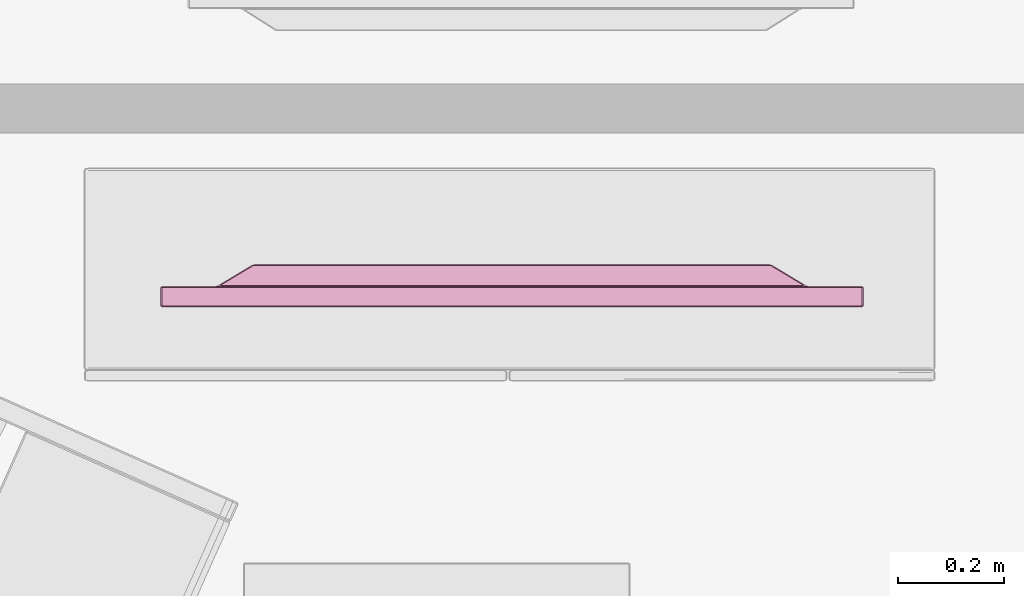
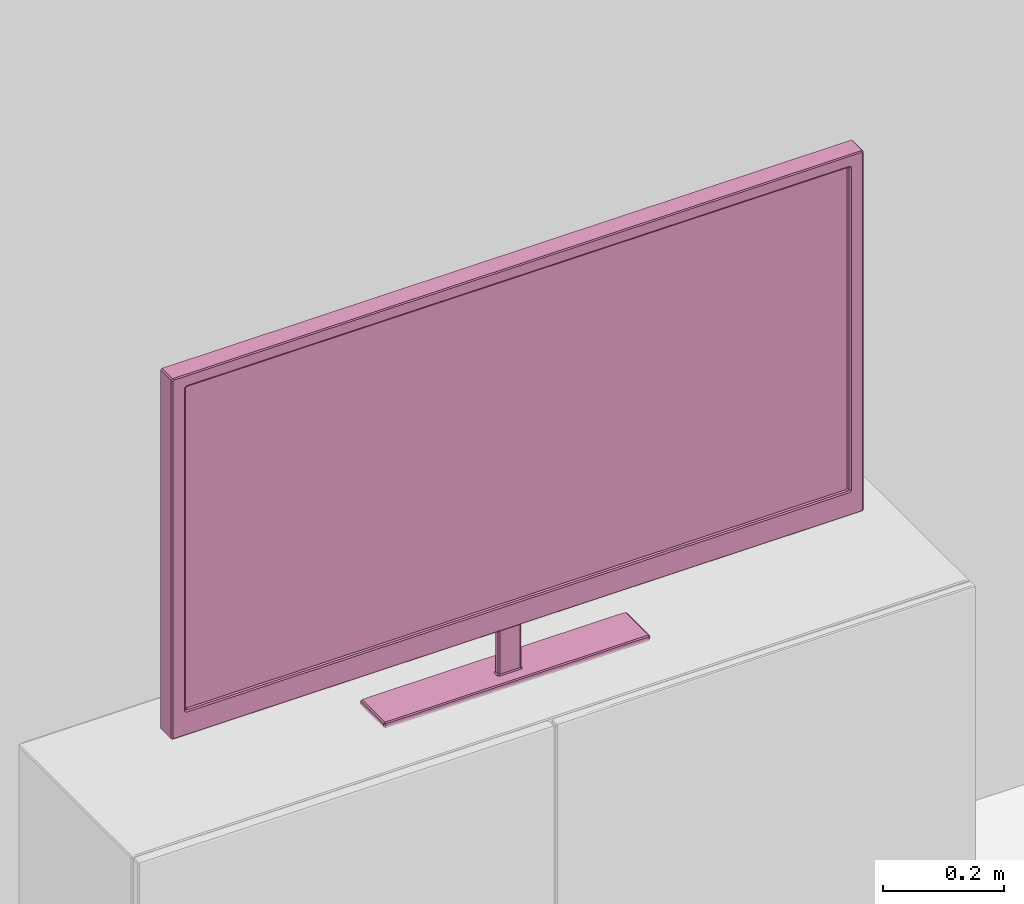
# One storey, part 12 of 26: 1 furnishing.
"""IFC2X3 building model written with IfcOpenShell, lengths in metres."""

from ifc_helpers import new_model, si_unit, direction, frame, origin_with_axes, place, context, project, spatial, faceted_brep, type_object, element, save


model = new_model("IFC2X3")

# Units and contexts
model_context = context("Model", 3, precision=1e-05, world=origin_with_axes(), true_north=direction((0.996, -0.093, 0.0)))
ifc_project = project(units=[si_unit("AREAUNIT", "SQUARE_METRE"), si_unit("LENGTHUNIT", "METRE")], contexts=[model_context])

# Site, building, storey, space
site_placement = place(None, origin_with_axes())
site = spatial("IfcSite", under=ifc_project, at=site_placement, Name="Site", CompositionType="ELEMENT")
building_placement = place(site_placement, origin_with_axes())
building = spatial("IfcBuilding", under=site, at=building_placement, Name="Building", CompositionType="ELEMENT")
storey_placement = place(building_placement, frame((0.0, 0.0, 0.0500001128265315), z_axis=(0.0, 0.0, 1.0), x_axis=(1.0, 0.0, 0.0)))
storey = spatial("IfcBuildingStorey", under=building, at=storey_placement, Name="Story 0", CompositionType="ELEMENT", Elevation=0.0499999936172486)
space_placement = place(storey_placement, frame((9.9354534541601, 0.769255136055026, 0.0), z_axis=(0.0, 0.0, 1.0), x_axis=(1.0, 0.0, 0.0)))
space = spatial("IfcSpace", under=storey, at=space_placement, Name="021", CompositionType="ELEMENT", InteriorOrExteriorSpace="INTERNAL")

# Furnishing
furniture_type = type_object("IfcFurnitureType", Name="e62a85dd-64e1-4275-b240-dcd4eaa5aa7b")
furnishing_placement = place(space_placement, frame((-1.20295147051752, -0.287239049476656, 1.22750790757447), z_axis=(0.0, 0.0, 0.999999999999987), x_axis=(0.0, -0.999999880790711, 0.0)))
element("IfcFurnishingElement", 1, at=furnishing_placement, inside=space, type_object=furniture_type, Name="Television", ObjectType="Television", context=model_context, shape_type="Brep", body=[
    faceted_brep([(0.0288, -0.6267, -0.2505), (0.0288, 0.6267, -0.2505), (0.0288, -0.6292, -0.2482), (0.0288, -0.6292, 0.3928), (0.0288, -0.6292, -0.2482), (0.0288, -0.6267, 0.3951), (0.0288, 0.6267, 0.3951), (0.0288, -0.6267, 0.3951), (0.0288, 0.6292, 0.3928), (0.0288, -0.6267, 0.3951), (0.0288, -0.6292, -0.2482), (0.0288, 0.6292, 0.3928), (0.0288, -0.6292, -0.2482), (0.0288, 0.6267, -0.2505), (0.0288, 0.6292, 0.3928), (0.0288, 0.6267, -0.2505), (0.0288, 0.6292, -0.2482), (0.0288, 0.6292, 0.3928), (0.003, -0.6609, 0.4215), (0.003, -0.6609, -0.3021), (0.038, -0.6609, 0.4215), (0.038, -0.6609, -0.3021), (0.038, -0.6609, 0.4215), (0.003, -0.6609, -0.3021), (0.003, 0.6609, -0.3021), (0.003, 0.6609, 0.4215), (0.038, 0.6609, -0.3021), (0.038, 0.6609, 0.4215), (0.038, 0.6609, -0.3021), (0.003, 0.6609, 0.4215), (0.003, 0.6584, 0.4237), (0.003, -0.6584, 0.4237), (0.038, 0.6584, 0.4237), (0.038, -0.6584, 0.4237), (0.038, 0.6584, 0.4237), (0.003, -0.6584, 0.4237), (0.0143, -0.0228, -0.2782), (0.0062, -0.0228, -0.2782), (0.0143, -0.0228, -0.4092), (0.0062, -0.0228, -0.4092), (0.0143, -0.0228, -0.4092), (0.0062, -0.0228, -0.2782), (0.0162, 0.0181, -0.2782), (0.0162, -0.0203, -0.2782), (0.0162, 0.0181, -0.4092), (0.0162, -0.0203, -0.4092), (0.0162, 0.0181, -0.4092), (0.0162, -0.0203, -0.2782), (0.0062, 0.0205, -0.2782), (0.0143, 0.0205, -0.2782), (0.0062, 0.0205, -0.4092), (0.0143, 0.0205, -0.4092), (0.0062, 0.0205, -0.4092), (0.0143, 0.0205, -0.2782), (-0.04, 0.4844, -0.1705), (-0.04, -0.4844, -0.1705), (-0.04, 0.4844, 0.2899), (-0.04, -0.4844, 0.2899), (-0.04, 0.4844, 0.2899), (-0.04, -0.4844, -0.1705), (0.0043, 0.0181, -0.4092), (0.0043, -0.0203, -0.4092), (0.0043, 0.0181, -0.2782), (0.0043, -0.0203, -0.2782), (0.0043, 0.0181, -0.2782), (0.0043, -0.0203, -0.4092), (0.038, -0.6584, -0.3044), (0.003, -0.6584, -0.3044), (0.038, 0.6584, -0.3044), (0.003, 0.6584, -0.3044), (0.038, 0.6584, -0.3044), (0.003, -0.6584, -0.3044), (-0.0379, -0.2528, -0.4237), (-0.0379, 0.2505, -0.4237), (0.0382, -0.2528, -0.4237), (0.0382, 0.2505, -0.4237), (0.0382, -0.2528, -0.4237), (-0.0379, 0.2505, -0.4237), (0.0399, -0.6326, -0.2572), (0.0399, -0.657, -0.3021), (0.0399, 0.6326, -0.2572), (0.0399, 0.657, -0.3021), (0.0399, 0.6326, -0.2572), (0.0399, -0.657, -0.3021), (0.0399, -0.6366, 0.3986), (0.0399, -0.6584, 0.4184), (0.0399, -0.6366, -0.2545), (0.0399, -0.6584, -0.2948), (0.0399, -0.6366, -0.2545), (0.0399, -0.6584, 0.4184), (0.0399, 0.6331, 0.4018), (0.0399, 0.655, 0.4215), (0.0399, -0.6331, 0.4018), (0.0399, -0.655, 0.4215), (0.0399, -0.6331, 0.4018), (0.0399, 0.655, 0.4215), (0.0399, 0.6584, -0.2948), (0.0399, 0.6584, 0.4184), (0.0399, 0.6366, -0.2545), (0.0399, 0.6366, 0.3986), (0.0399, 0.6366, -0.2545), (0.0399, 0.6584, 0.4184), (0.0288, -0.6267, -0.2505), (0.0381, -0.6308, -0.2543), (0.0288, 0.6267, -0.2505), (0.0381, 0.6308, -0.2543), (0.0288, 0.6267, -0.2505), (0.0381, -0.6308, -0.2543), (0.0288, -0.6292, 0.3928), (0.0381, -0.6334, 0.3965), (0.0288, -0.6292, -0.2482), (0.0381, -0.6334, -0.2519), (0.0288, -0.6292, -0.2482), (0.0381, -0.6334, 0.3965), (0.0288, 0.6267, 0.3951), (0.0381, 0.6308, 0.3988), (0.0288, -0.6267, 0.3951), (0.0381, -0.6308, 0.3988), (0.0288, -0.6267, 0.3951), (0.0381, 0.6308, 0.3988), (0.0288, 0.6292, -0.2482), (0.0381, 0.6334, -0.2519), (0.0288, 0.6292, 0.3928), (0.0381, 0.6334, 0.3965), (0.0288, 0.6292, 0.3928), (0.0381, 0.6334, -0.2519), (0.0011, -0.5579, -0.2134), (0.0011, -0.6584, -0.2992), (0.0011, -0.5579, 0.3327), (0.0011, -0.6584, 0.4186), (0.0011, -0.5579, 0.3327), (0.0011, -0.6584, -0.2992), (0.0011, 0.5545, -0.2165), (0.0011, 0.6547, -0.3021), (0.0011, -0.5545, -0.2165), (0.0011, -0.6547, -0.3021), (0.0011, -0.5545, -0.2165), (0.0011, 0.6547, -0.3021), (0.0011, 0.5579, 0.3327), (0.0011, 0.6584, 0.4186), (0.0011, 0.5579, -0.2134), (0.0011, 0.6584, -0.2992), (0.0011, 0.5579, -0.2134), (0.0011, 0.6584, 0.4186), (0.0011, -0.5545, 0.3359), (0.0011, -0.6547, 0.4215), (0.0011, 0.5545, 0.3359), (0.0011, 0.6547, 0.4215), (0.0011, 0.5545, 0.3359), (0.0011, -0.6547, 0.4215), (-0.0389, -0.4888, 0.2908), (-0.0389, -0.4888, -0.1714), (0.0, -0.5535, 0.33), (0.0, -0.5535, -0.2107), (0.0, -0.5535, 0.33), (-0.0389, -0.4888, -0.1714), (-0.0386, -0.4858, -0.1742), (-0.0386, 0.4858, -0.1742), (-0.0003, -0.5497, -0.2129), (-0.0003, 0.5497, -0.2129), (-0.0003, -0.5497, -0.2129), (-0.0386, 0.4858, -0.1742), (-0.0389, 0.4888, -0.1714), (-0.0389, 0.4888, 0.2908), (0.0, 0.5535, -0.2107), (0.0, 0.5535, 0.33), (0.0, 0.5535, -0.2107), (-0.0389, 0.4888, 0.2908), (-0.0386, 0.4858, 0.2935), (-0.0386, -0.4858, 0.2935), (-0.0003, 0.5497, 0.3323), (-0.0003, -0.5497, 0.3323), (-0.0003, 0.5497, 0.3323), (-0.0386, -0.4858, 0.2935), (0.04, 0.2505, -0.4215), (0.04, 0.2505, -0.4138), (0.04, -0.2528, -0.4215), (0.04, -0.2528, -0.4138), (0.04, -0.2528, -0.4215), (0.04, 0.2505, -0.4138), (-0.0379, 0.253, -0.4215), (-0.0379, 0.253, -0.4138), (0.0382, 0.253, -0.4215), (0.0382, 0.253, -0.4138), (0.0382, 0.253, -0.4215), (-0.0379, 0.253, -0.4138), (-0.0397, -0.2528, -0.4215), (-0.0397, -0.2528, -0.4138), (-0.0397, 0.2505, -0.4215), (-0.0397, 0.2505, -0.4138), (-0.0397, 0.2505, -0.4215), (-0.0397, -0.2528, -0.4138), (0.0382, -0.2552, -0.4215), (0.0382, -0.2552, -0.4138), (-0.0379, -0.2552, -0.4215), (-0.0379, -0.2552, -0.4138), (-0.0379, -0.2552, -0.4215), (0.0382, -0.2552, -0.4138), (-0.0374, -0.2528, -0.4115), (0.0379, -0.2528, -0.4115), (0.0058, -0.0252, -0.4115), (0.0146, -0.0252, -0.4115), (0.0058, -0.0252, -0.4115), (0.0379, -0.2528, -0.4115), (0.0025, 0.0202, -0.4115), (-0.0379, 0.2332, -0.4115), (0.0025, -0.0225, -0.4115), (-0.0379, -0.2355, -0.4115), (0.0025, -0.0225, -0.4115), (-0.0379, 0.2332, -0.4115), (0.0146, 0.023, -0.4115), (0.0379, 0.2505, -0.4116), (0.0058, 0.023, -0.4115), (-0.0374, 0.2505, -0.4116), (0.0058, 0.023, -0.4115), (0.0379, 0.2505, -0.4116), (0.018, -0.0226, -0.4115), (0.0382, -0.2191, -0.4115), (0.018, 0.0204, -0.4115), (0.0382, 0.2169, -0.4115), (0.018, 0.0204, -0.4115), (0.0382, -0.2191, -0.4115), (0.0346, -0.6464, -0.2633), (0.0346, 0.6464, -0.2633), (0.0346, -0.6464, 0.4078), (0.0346, 0.6464, 0.4078), (0.0346, -0.6464, 0.4078), (0.0346, 0.6464, -0.2633), (0.0399, -0.655, 0.4215), (0.038, -0.6584, 0.4237), (0.0399, -0.6584, 0.4184), (0.038, -0.6609, 0.4215), (0.0399, -0.6584, 0.4184), (0.038, -0.6584, 0.4237), (0.0011, 0.6547, 0.4215), (0.003, 0.6584, 0.4237), (0.0011, 0.6584, 0.4186), (0.003, 0.6609, 0.4215), (0.0011, 0.6584, 0.4186), (0.003, 0.6584, 0.4237), (0.0399, 0.6584, 0.4184), (0.038, 0.6609, 0.4215), (0.0399, 0.655, 0.4215), (0.038, 0.6584, 0.4237), (0.0399, 0.655, 0.4215), (0.038, 0.6609, 0.4215), (0.0058, -0.0252, -0.4115), (0.0062, -0.0228, -0.4092), (0.0025, -0.0225, -0.4115), (0.0043, -0.0203, -0.4092), (0.0025, -0.0225, -0.4115), (0.0062, -0.0228, -0.4092), (0.0146, -0.0252, -0.4115), (0.018, -0.0226, -0.4115), (0.0143, -0.0228, -0.4092), (0.0162, -0.0203, -0.4092), (0.0143, -0.0228, -0.4092), (0.018, -0.0226, -0.4115), (0.0146, 0.023, -0.4115), (0.0143, 0.0205, -0.4092), (0.018, 0.0204, -0.4115), (0.0162, 0.0181, -0.4092), (0.018, 0.0204, -0.4115), (0.0143, 0.0205, -0.4092), (-0.0386, -0.4858, 0.2935), (-0.04, -0.4844, 0.2899), (-0.0389, -0.4888, 0.2908), (0.0058, 0.023, -0.4115), (0.0025, 0.0202, -0.4115), (0.0062, 0.0205, -0.4092), (0.0043, 0.0181, -0.4092), (0.0062, 0.0205, -0.4092), (0.0025, 0.0202, -0.4115), (0.0011, -0.6547, -0.3021), (0.003, -0.6584, -0.3044), (0.0011, -0.6584, -0.2992), (0.003, -0.6609, -0.3021), (0.0011, -0.6584, -0.2992), (0.003, -0.6584, -0.3044), (0.0399, -0.6584, -0.2948), (0.038, -0.6609, -0.3021), (0.0399, -0.657, -0.3021), (0.038, -0.6584, -0.3044), (0.0399, -0.657, -0.3021), (0.038, -0.6609, -0.3021), (0.0382, -0.2552, -0.4215), (0.0382, -0.2528, -0.4237), (0.04, -0.2528, -0.4215), (0.0399, 0.6584, -0.2948), (0.0399, 0.657, -0.3021), (0.038, 0.6609, -0.3021), (0.038, 0.6584, -0.3044), (0.038, 0.6609, -0.3021), (0.0399, 0.657, -0.3021), (0.0381, -0.6334, -0.2519), (0.0399, -0.6366, -0.2545), (0.0381, -0.6308, -0.2543), (0.0399, -0.6326, -0.2572), (0.0381, -0.6308, -0.2543), (0.0399, -0.6366, -0.2545), (0.0381, -0.6308, 0.3988), (0.0399, -0.6331, 0.4018), (0.0381, -0.6334, 0.3965), (0.0399, -0.6366, 0.3986), (0.0381, -0.6334, 0.3965), (0.0399, -0.6331, 0.4018), (0.0381, 0.6334, 0.3965), (0.0399, 0.6366, 0.3986), (0.0381, 0.6308, 0.3988), (0.0399, 0.6331, 0.4018), (0.0381, 0.6308, 0.3988), (0.0399, 0.6366, 0.3986), (0.0381, 0.6334, -0.2519), (0.0381, 0.6308, -0.2543), (0.0399, 0.6366, -0.2545), (0.0399, 0.6326, -0.2572), (0.0399, 0.6366, -0.2545), (0.0381, 0.6308, -0.2543), (0.0011, -0.6547, 0.4215), (0.0011, -0.6584, 0.4186), (0.003, -0.6584, 0.4237), (0.003, -0.6609, 0.4215), (0.003, -0.6584, 0.4237), (0.0011, -0.6584, 0.4186), (-0.0003, -0.5497, 0.3323), (0.0, -0.5535, 0.33), (0.0011, -0.5545, 0.3359), (0.0011, -0.5579, 0.3327), (0.0011, -0.5545, 0.3359), (0.0, -0.5535, 0.33), (-0.0003, -0.5497, -0.2129), (0.0011, -0.5545, -0.2165), (0.0, -0.5535, -0.2107), (0.0011, -0.5579, -0.2134), (0.0, -0.5535, -0.2107), (0.0011, -0.5545, -0.2165), (0.0011, 0.6547, -0.3021), (0.0011, 0.6584, -0.2992), (0.003, 0.6584, -0.3044), (0.003, 0.6609, -0.3021), (0.003, 0.6584, -0.3044), (0.0011, 0.6584, -0.2992), (-0.0003, 0.5497, -0.2129), (0.0, 0.5535, -0.2107), (0.0011, 0.5545, -0.2165), (0.0011, 0.5579, -0.2134), (0.0011, 0.5545, -0.2165), (0.0, 0.5535, -0.2107), (-0.0003, 0.5497, 0.3323), (0.0011, 0.5545, 0.3359), (0.0, 0.5535, 0.33), (0.0011, 0.5579, 0.3327), (0.0, 0.5535, 0.33), (0.0011, 0.5545, 0.3359), (-0.0386, -0.4858, -0.1742), (-0.0389, -0.4888, -0.1714), (-0.04, -0.4844, -0.1705), (-0.0389, 0.4888, -0.1714), (-0.0386, 0.4858, -0.1742), (-0.04, 0.4844, -0.1705), (-0.0386, 0.4858, 0.2935), (-0.0389, 0.4888, 0.2908), (-0.04, 0.4844, 0.2899), (0.0382, 0.253, -0.4215), (0.04, 0.2505, -0.4215), (0.0382, 0.2505, -0.4237), (-0.0397, 0.2505, -0.4215), (-0.0379, 0.253, -0.4215), (-0.0379, 0.2505, -0.4237), (-0.0379, -0.2552, -0.4215), (-0.0397, -0.2528, -0.4215), (-0.0379, -0.2528, -0.4237), (-0.0379, -0.2355, -0.4115), (-0.0397, -0.2528, -0.4138), (-0.0374, -0.2528, -0.4115), (-0.0379, -0.2552, -0.4138), (-0.0374, -0.2528, -0.4115), (-0.0397, -0.2528, -0.4138), (0.0382, -0.2191, -0.4115), (0.0379, -0.2528, -0.4115), (0.04, -0.2528, -0.4138), (0.0382, -0.2552, -0.4138), (0.04, -0.2528, -0.4138), (0.0379, -0.2528, -0.4115), (-0.0379, 0.2332, -0.4115), (-0.0374, 0.2505, -0.4116), (-0.0397, 0.2505, -0.4138), (-0.0379, 0.253, -0.4138), (-0.0397, 0.2505, -0.4138), (-0.0374, 0.2505, -0.4116), (0.0382, 0.253, -0.4138), (0.0379, 0.2505, -0.4116), (0.04, 0.2505, -0.4138), (0.0382, 0.2169, -0.4115), (0.04, 0.2505, -0.4138), (0.0379, 0.2505, -0.4116), (0.038, -0.6609, -0.3021), (0.003, -0.6609, -0.3021), (0.038, -0.6584, -0.3044), (0.003, -0.6584, -0.3044), (0.038, -0.6584, -0.3044), (0.003, -0.6609, -0.3021), (0.003, -0.6609, 0.4215), (0.038, -0.6609, 0.4215), (0.003, -0.6584, 0.4237), (0.038, -0.6584, 0.4237), (0.003, -0.6584, 0.4237), (0.038, -0.6609, 0.4215), (0.038, 0.6609, 0.4215), (0.003, 0.6609, 0.4215), (0.038, 0.6584, 0.4237), (0.003, 0.6584, 0.4237), (0.038, 0.6584, 0.4237), (0.003, 0.6609, 0.4215), (0.003, 0.6609, -0.3021), (0.038, 0.6609, -0.3021), (0.003, 0.6584, -0.3044), (0.038, 0.6584, -0.3044), (0.003, 0.6584, -0.3044), (0.038, 0.6609, -0.3021), (0.0062, -0.0228, -0.4092), (0.0062, -0.0228, -0.2782), (0.0043, -0.0203, -0.4092), (0.0043, -0.0203, -0.2782), (0.0043, -0.0203, -0.4092), (0.0062, -0.0228, -0.2782), (0.0143, -0.0228, -0.2782), (0.0143, -0.0228, -0.4092), (0.0162, -0.0203, -0.2782), (0.0162, -0.0203, -0.4092), (0.0162, -0.0203, -0.2782), (0.0143, -0.0228, -0.4092), (0.0162, 0.0181, -0.2782), (0.0162, 0.0181, -0.4092), (0.0143, 0.0205, -0.2782), (0.0143, 0.0205, -0.4092), (0.0143, 0.0205, -0.2782), (0.0162, 0.0181, -0.4092), (0.0062, 0.0205, -0.2782), (0.0062, 0.0205, -0.4092), (0.0043, 0.0181, -0.2782), (0.0043, 0.0181, -0.4092), (0.0043, 0.0181, -0.2782), (0.0062, 0.0205, -0.4092), (-0.04, -0.4844, 0.2899), (-0.04, -0.4844, -0.1705), (-0.0389, -0.4888, 0.2908), (-0.0389, -0.4888, -0.1714), (-0.0389, -0.4888, 0.2908), (-0.04, -0.4844, -0.1705), (-0.04, -0.4844, -0.1705), (-0.04, 0.4844, -0.1705), (-0.0386, -0.4858, -0.1742), (-0.0386, 0.4858, -0.1742), (-0.0386, -0.4858, -0.1742), (-0.04, 0.4844, -0.1705), (-0.04, 0.4844, -0.1705), (-0.04, 0.4844, 0.2899), (-0.0389, 0.4888, -0.1714), (-0.0389, 0.4888, 0.2908), (-0.0389, 0.4888, -0.1714), (-0.04, 0.4844, 0.2899), (-0.04, 0.4844, 0.2899), (-0.04, -0.4844, 0.2899), (-0.0386, 0.4858, 0.2935), (-0.0386, -0.4858, 0.2935), (-0.0386, 0.4858, 0.2935), (-0.04, -0.4844, 0.2899), (0.0382, 0.2505, -0.4237), (-0.0379, 0.2505, -0.4237), (0.0382, 0.253, -0.4215), (-0.0379, 0.253, -0.4215), (0.0382, 0.253, -0.4215), (-0.0379, 0.2505, -0.4237), (-0.0379, 0.2505, -0.4237), (-0.0379, -0.2528, -0.4237), (-0.0397, 0.2505, -0.4215), (-0.0397, -0.2528, -0.4215), (-0.0397, 0.2505, -0.4215), (-0.0379, -0.2528, -0.4237), (-0.0379, -0.2528, -0.4237), (0.0382, -0.2528, -0.4237), (-0.0379, -0.2552, -0.4215), (0.0382, -0.2552, -0.4215), (-0.0379, -0.2552, -0.4215), (0.0382, -0.2528, -0.4237), (0.0382, -0.2528, -0.4237), (0.0382, 0.2505, -0.4237), (0.04, -0.2528, -0.4215), (0.04, 0.2505, -0.4215), (0.04, -0.2528, -0.4215), (0.0382, 0.2505, -0.4237), (0.0399, 0.657, -0.3021), (0.0399, -0.657, -0.3021), (0.038, 0.6584, -0.3044), (0.038, -0.6584, -0.3044), (0.038, 0.6584, -0.3044), (0.0399, -0.657, -0.3021), (0.0399, -0.657, -0.3021), (0.0399, -0.6326, -0.2572), (0.0399, -0.6584, -0.2948), (0.0399, -0.6366, -0.2545), (0.0399, -0.6584, -0.2948), (0.0399, -0.6326, -0.2572), (0.0399, -0.6584, -0.2948), (0.0399, -0.6584, 0.4184), (0.038, -0.6609, -0.3021), (0.038, -0.6609, 0.4215), (0.038, -0.6609, -0.3021), (0.0399, -0.6584, 0.4184), (0.0399, -0.6584, 0.4184), (0.0399, -0.6366, 0.3986), (0.0399, -0.655, 0.4215), (0.0399, -0.6331, 0.4018), (0.0399, -0.655, 0.4215), (0.0399, -0.6366, 0.3986), (0.0399, -0.655, 0.4215), (0.0399, 0.655, 0.4215), (0.038, -0.6584, 0.4237), (0.038, 0.6584, 0.4237), (0.038, -0.6584, 0.4237), (0.0399, 0.655, 0.4215), (0.0399, 0.655, 0.4215), (0.0399, 0.6331, 0.4018), (0.0399, 0.6584, 0.4184), (0.0399, 0.6366, 0.3986), (0.0399, 0.6584, 0.4184), (0.0399, 0.6331, 0.4018), (0.0399, 0.6584, 0.4184), (0.0399, 0.6584, -0.2948), (0.038, 0.6609, 0.4215), (0.038, 0.6609, -0.3021), (0.038, 0.6609, 0.4215), (0.0399, 0.6584, -0.2948), (0.0399, 0.6584, -0.2948), (0.0399, 0.6366, -0.2545), (0.0399, 0.657, -0.3021), (0.0399, 0.6326, -0.2572), (0.0399, 0.657, -0.3021), (0.0399, 0.6366, -0.2545), (0.0381, 0.6308, -0.2543), (0.0381, -0.6308, -0.2543), (0.0399, 0.6326, -0.2572), (0.0399, -0.6326, -0.2572), (0.0399, 0.6326, -0.2572), (0.0381, -0.6308, -0.2543), (0.0381, -0.6308, -0.2543), (0.0288, -0.6267, -0.2505), (0.0381, -0.6334, -0.2519), (0.0288, -0.6292, -0.2482), (0.0381, -0.6334, -0.2519), (0.0288, -0.6267, -0.2505), (0.0381, -0.6334, -0.2519), (0.0381, -0.6334, 0.3965), (0.0399, -0.6366, -0.2545), (0.0399, -0.6366, 0.3986), (0.0399, -0.6366, -0.2545), (0.0381, -0.6334, 0.3965), (0.0381, -0.6334, 0.3965), (0.0288, -0.6292, 0.3928), (0.0381, -0.6308, 0.3988), (0.0288, -0.6267, 0.3951), (0.0381, -0.6308, 0.3988), (0.0288, -0.6292, 0.3928), (0.0381, -0.6308, 0.3988), (0.0381, 0.6308, 0.3988), (0.0399, -0.6331, 0.4018), (0.0399, 0.6331, 0.4018), (0.0399, -0.6331, 0.4018), (0.0381, 0.6308, 0.3988), (0.0381, 0.6308, 0.3988), (0.0288, 0.6267, 0.3951), (0.0381, 0.6334, 0.3965), (0.0288, 0.6292, 0.3928), (0.0381, 0.6334, 0.3965), (0.0288, 0.6267, 0.3951), (0.0381, 0.6334, 0.3965), (0.0381, 0.6334, -0.2519), (0.0399, 0.6366, 0.3986), (0.0399, 0.6366, -0.2545), (0.0399, 0.6366, 0.3986), (0.0381, 0.6334, -0.2519), (0.0381, 0.6334, -0.2519), (0.0288, 0.6292, -0.2482), (0.0381, 0.6308, -0.2543), (0.0288, 0.6267, -0.2505), (0.0381, 0.6308, -0.2543), (0.0288, 0.6292, -0.2482), (0.0011, -0.6584, 0.4186), (0.0011, -0.6584, -0.2992), (0.003, -0.6609, 0.4215), (0.003, -0.6609, -0.3021), (0.003, -0.6609, 0.4215), (0.0011, -0.6584, -0.2992), (0.0011, -0.6584, -0.2992), (0.0011, -0.5579, -0.2134), (0.0011, -0.6547, -0.3021), (0.0011, -0.5545, -0.2165), (0.0011, -0.6547, -0.3021), (0.0011, -0.5579, -0.2134), (0.0011, -0.5579, -0.2134), (0.0011, -0.5579, 0.3327), (0.0, -0.5535, -0.2107), (0.0, -0.5535, 0.33), (0.0, -0.5535, -0.2107), (0.0011, -0.5579, 0.3327), (0.0011, -0.6547, -0.3021), (0.0011, 0.6547, -0.3021), (0.003, -0.6584, -0.3044), (0.003, 0.6584, -0.3044), (0.003, -0.6584, -0.3044), (0.0011, 0.6547, -0.3021), (0.0011, 0.6547, -0.3021), (0.0011, 0.5545, -0.2165), (0.0011, 0.6584, -0.2992), (0.0011, 0.5579, -0.2134), (0.0011, 0.6584, -0.2992), (0.0011, 0.5545, -0.2165), (0.0011, 0.5545, -0.2165), (0.0011, -0.5545, -0.2165), (-0.0003, 0.5497, -0.2129), (-0.0003, -0.5497, -0.2129), (-0.0003, 0.5497, -0.2129), (0.0011, -0.5545, -0.2165), (0.0011, 0.6584, -0.2992), (0.0011, 0.6584, 0.4186), (0.003, 0.6609, -0.3021), (0.003, 0.6609, 0.4215), (0.003, 0.6609, -0.3021), (0.0011, 0.6584, 0.4186), (0.0011, 0.6584, 0.4186), (0.0011, 0.5579, 0.3327), (0.0011, 0.6547, 0.4215), (0.0011, 0.5545, 0.3359), (0.0011, 0.6547, 0.4215), (0.0011, 0.5579, 0.3327), (0.0011, 0.5579, 0.3327), (0.0011, 0.5579, -0.2134), (0.0, 0.5535, 0.33), (0.0, 0.5535, -0.2107), (0.0, 0.5535, 0.33), (0.0011, 0.5579, -0.2134), (0.0011, 0.6547, 0.4215), (0.0011, -0.6547, 0.4215), (0.003, 0.6584, 0.4237), (0.003, -0.6584, 0.4237), (0.003, 0.6584, 0.4237), (0.0011, -0.6547, 0.4215), (0.0011, -0.6547, 0.4215), (0.0011, -0.5545, 0.3359), (0.0011, -0.6584, 0.4186), (0.0011, -0.5579, 0.3327), (0.0011, -0.6584, 0.4186), (0.0011, -0.5545, 0.3359), (0.0011, -0.5545, 0.3359), (0.0011, 0.5545, 0.3359), (-0.0003, -0.5497, 0.3323), (-0.0003, 0.5497, 0.3323), (-0.0003, -0.5497, 0.3323), (0.0011, 0.5545, 0.3359), (0.0, -0.5535, -0.2107), (-0.0389, -0.4888, -0.1714), (-0.0003, -0.5497, -0.2129), (-0.0386, -0.4858, -0.1742), (-0.0003, -0.5497, -0.2129), (-0.0389, -0.4888, -0.1714), (-0.0003, 0.5497, -0.2129), (-0.0386, 0.4858, -0.1742), (0.0, 0.5535, -0.2107), (-0.0389, 0.4888, -0.1714), (0.0, 0.5535, -0.2107), (-0.0386, 0.4858, -0.1742), (0.0, 0.5535, 0.33), (-0.0389, 0.4888, 0.2908), (-0.0003, 0.5497, 0.3323), (-0.0386, 0.4858, 0.2935), (-0.0003, 0.5497, 0.3323), (-0.0389, 0.4888, 0.2908), (-0.0003, -0.5497, 0.3323), (-0.0386, -0.4858, 0.2935), (0.0, -0.5535, 0.33), (-0.0389, -0.4888, 0.2908), (0.0, -0.5535, 0.33), (-0.0386, -0.4858, 0.2935), (0.04, 0.2505, -0.4138), (0.04, 0.2505, -0.4215), (0.0382, 0.253, -0.4138), (0.0382, 0.253, -0.4215), (0.0382, 0.253, -0.4138), (0.04, 0.2505, -0.4215), (-0.0379, 0.253, -0.4138), (-0.0379, 0.253, -0.4215), (-0.0397, 0.2505, -0.4138), (-0.0397, 0.2505, -0.4215), (-0.0397, 0.2505, -0.4138), (-0.0379, 0.253, -0.4215), (-0.0397, -0.2528, -0.4138), (-0.0397, -0.2528, -0.4215), (-0.0379, -0.2552, -0.4138), (-0.0379, -0.2552, -0.4215), (-0.0379, -0.2552, -0.4138), (-0.0397, -0.2528, -0.4215), (0.0382, -0.2552, -0.4138), (0.0382, -0.2552, -0.4215), (0.04, -0.2528, -0.4138), (0.04, -0.2528, -0.4215), (0.04, -0.2528, -0.4138), (0.0382, -0.2552, -0.4215), (0.0379, -0.2528, -0.4115), (-0.0374, -0.2528, -0.4115), (0.0382, -0.2552, -0.4138), (-0.0379, -0.2552, -0.4138), (0.0382, -0.2552, -0.4138), (-0.0374, -0.2528, -0.4115), (-0.0374, -0.2528, -0.4115), (0.0058, -0.0252, -0.4115), (-0.0379, -0.2355, -0.4115), (0.0025, -0.0225, -0.4115), (-0.0379, -0.2355, -0.4115), (0.0058, -0.0252, -0.4115), (0.0058, -0.0252, -0.4115), (0.0146, -0.0252, -0.4115), (0.0062, -0.0228, -0.4092), (0.0143, -0.0228, -0.4092), (0.0062, -0.0228, -0.4092), (0.0146, -0.0252, -0.4115), (-0.0379, -0.2355, -0.4115), (-0.0379, 0.2332, -0.4115), (-0.0397, -0.2528, -0.4138), (-0.0397, 0.2505, -0.4138), (-0.0397, -0.2528, -0.4138), (-0.0379, 0.2332, -0.4115), (-0.0379, 0.2332, -0.4115), (0.0025, 0.0202, -0.4115), (-0.0374, 0.2505, -0.4116), (0.0058, 0.023, -0.4115), (-0.0374, 0.2505, -0.4116), (0.0025, 0.0202, -0.4115), (0.0025, 0.0202, -0.4115), (0.0025, -0.0225, -0.4115), (0.0043, 0.0181, -0.4092), (0.0043, -0.0203, -0.4092), (0.0043, 0.0181, -0.4092), (0.0025, -0.0225, -0.4115), (-0.0374, 0.2505, -0.4116), (0.0379, 0.2505, -0.4116), (-0.0379, 0.253, -0.4138), (0.0382, 0.253, -0.4138), (-0.0379, 0.253, -0.4138), (0.0379, 0.2505, -0.4116), (0.0379, 0.2505, -0.4116), (0.0146, 0.023, -0.4115), (0.0382, 0.2169, -0.4115), (0.018, 0.0204, -0.4115), (0.0382, 0.2169, -0.4115), (0.0146, 0.023, -0.4115), (0.0146, 0.023, -0.4115), (0.0058, 0.023, -0.4115), (0.0143, 0.0205, -0.4092), (0.0062, 0.0205, -0.4092), (0.0143, 0.0205, -0.4092), (0.0058, 0.023, -0.4115), (0.0382, 0.2169, -0.4115), (0.0382, -0.2191, -0.4115), (0.04, 0.2505, -0.4138), (0.04, -0.2528, -0.4138), (0.04, 0.2505, -0.4138), (0.0382, -0.2191, -0.4115), (0.0382, -0.2191, -0.4115), (0.018, -0.0226, -0.4115), (0.0379, -0.2528, -0.4115), (0.0146, -0.0252, -0.4115), (0.0379, -0.2528, -0.4115), (0.018, -0.0226, -0.4115), (0.018, -0.0226, -0.4115), (0.018, 0.0204, -0.4115), (0.0162, -0.0203, -0.4092), (0.0162, 0.0181, -0.4092), (0.0162, -0.0203, -0.4092), (0.018, 0.0204, -0.4115)], [[[0, 1, 2]], [[3, 4, 5]], [[6, 7, 8]], [[9, 10, 11]], [[12, 13, 14]], [[15, 16, 17]], [[18, 19, 20]], [[21, 22, 23]], [[24, 25, 26]], [[27, 28, 29]], [[30, 31, 32]], [[33, 34, 35]], [[36, 37, 38]], [[39, 40, 41]], [[42, 43, 44]], [[45, 46, 47]], [[48, 49, 50]], [[51, 52, 53]], [[54, 55, 56]], [[57, 58, 59]], [[60, 61, 62]], [[63, 64, 65]], [[66, 67, 68]], [[69, 70, 71]], [[72, 73, 74]], [[75, 76, 77]], [[78, 79, 80]], [[81, 82, 83]], [[84, 85, 86]], [[87, 88, 89]], [[90, 91, 92]], [[93, 94, 95]], [[96, 97, 98]], [[99, 100, 101]], [[102, 103, 104]], [[105, 106, 107]], [[108, 109, 110]], [[111, 112, 113]], [[114, 115, 116]], [[117, 118, 119]], [[120, 121, 122]], [[123, 124, 125]], [[126, 127, 128]], [[129, 130, 131]], [[132, 133, 134]], [[135, 136, 137]], [[138, 139, 140]], [[141, 142, 143]], [[144, 145, 146]], [[147, 148, 149]], [[150, 151, 152]], [[153, 154, 155]], [[156, 157, 158]], [[159, 160, 161]], [[162, 163, 164]], [[165, 166, 167]], [[168, 169, 170]], [[171, 172, 173]], [[174, 175, 176]], [[177, 178, 179]], [[180, 181, 182]], [[183, 184, 185]], [[186, 187, 188]], [[189, 190, 191]], [[192, 193, 194]], [[195, 196, 197]], [[198, 199, 200]], [[201, 202, 203]], [[204, 205, 206]], [[207, 208, 209]], [[210, 211, 212]], [[213, 214, 215]], [[216, 217, 218]], [[219, 220, 221]], [[222, 223, 224]], [[225, 226, 227]], [[228, 229, 230]], [[231, 232, 233]], [[234, 235, 236]], [[237, 238, 239]], [[240, 241, 242]], [[243, 244, 245]], [[246, 247, 248]], [[249, 250, 251]], [[252, 253, 254]], [[255, 256, 257]], [[258, 259, 260]], [[261, 262, 263]], [[264, 265, 266]], [[267, 268, 269]], [[270, 271, 272]], [[273, 274, 275]], [[276, 277, 278]], [[279, 280, 281]], [[282, 283, 284]], [[285, 286, 287]], [[288, 289, 290]], [[291, 292, 293]], [[294, 295, 296]], [[297, 298, 299]], [[300, 301, 302]], [[303, 304, 305]], [[306, 307, 308]], [[309, 310, 311]], [[312, 313, 314]], [[315, 316, 317]], [[318, 319, 320]], [[321, 322, 323]], [[324, 325, 326]], [[327, 328, 329]], [[330, 331, 332]], [[333, 334, 335]], [[336, 337, 338]], [[339, 340, 341]], [[342, 343, 344]], [[345, 346, 347]], [[348, 349, 350]], [[351, 352, 353]], [[354, 355, 356]], [[357, 358, 359]], [[360, 361, 362]], [[363, 364, 365]], [[366, 367, 368]], [[369, 370, 371]], [[372, 373, 374]], [[375, 376, 377]], [[378, 379, 380]], [[381, 382, 383]], [[384, 385, 386]], [[387, 388, 389]], [[390, 391, 392]], [[393, 394, 395]], [[396, 397, 398]], [[399, 400, 401]], [[402, 403, 404]], [[405, 406, 407]], [[408, 409, 410]], [[411, 412, 413]], [[414, 415, 416]], [[417, 418, 419]], [[420, 421, 422]], [[423, 424, 425]], [[426, 427, 428]], [[429, 430, 431]], [[432, 433, 434]], [[435, 436, 437]], [[438, 439, 440]], [[441, 442, 443]], [[444, 445, 446]], [[447, 448, 449]], [[450, 451, 452]], [[453, 454, 455]], [[456, 457, 458]], [[459, 460, 461]], [[462, 463, 464]], [[465, 466, 467]], [[468, 469, 470]], [[471, 472, 473]], [[474, 475, 476]], [[477, 478, 479]], [[480, 481, 482]], [[483, 484, 485]], [[486, 487, 488]], [[489, 490, 491]], [[492, 493, 494]], [[495, 496, 497]], [[498, 499, 500]], [[501, 502, 503]], [[504, 505, 506]], [[507, 508, 509]], [[510, 511, 512]], [[513, 514, 515]], [[516, 517, 518]], [[519, 520, 521]], [[522, 523, 524]], [[525, 526, 527]], [[528, 529, 530]], [[531, 532, 533]], [[534, 535, 536]], [[537, 538, 539]], [[540, 541, 542]], [[543, 544, 545]], [[546, 547, 548]], [[549, 550, 551]], [[552, 553, 554]], [[555, 556, 557]], [[558, 559, 560]], [[561, 562, 563]], [[564, 565, 566]], [[567, 568, 569]], [[570, 571, 572]], [[573, 574, 575]], [[576, 577, 578]], [[579, 580, 581]], [[582, 583, 584]], [[585, 586, 587]], [[588, 589, 590]], [[591, 592, 593]], [[594, 595, 596]], [[597, 598, 599]], [[600, 601, 602]], [[603, 604, 605]], [[606, 607, 608]], [[609, 610, 611]], [[612, 613, 614]], [[615, 616, 617]], [[618, 619, 620]], [[621, 622, 623]], [[624, 625, 626]], [[627, 628, 629]], [[630, 631, 632]], [[633, 634, 635]], [[636, 637, 638]], [[639, 640, 641]], [[642, 643, 644]], [[645, 646, 647]], [[648, 649, 650]], [[651, 652, 653]], [[654, 655, 656]], [[657, 658, 659]], [[660, 661, 662]], [[663, 664, 665]], [[666, 667, 668]], [[669, 670, 671]], [[672, 673, 674]], [[675, 676, 677]], [[678, 679, 680]], [[681, 682, 683]], [[684, 685, 686]], [[687, 688, 689]], [[690, 691, 692]], [[693, 694, 695]], [[696, 697, 698]], [[699, 700, 701]], [[702, 703, 704]], [[705, 706, 707]], [[708, 709, 710]], [[711, 712, 713]], [[714, 715, 716]], [[717, 718, 719]], [[720, 721, 722]], [[723, 724, 725]], [[726, 727, 728]], [[729, 730, 731]], [[732, 733, 734]], [[735, 736, 737]], [[738, 739, 740]], [[741, 742, 743]], [[744, 745, 746]], [[747, 748, 749]], [[750, 751, 752]], [[753, 754, 755]], [[756, 757, 758]], [[759, 760, 761]], [[762, 763, 764]], [[765, 766, 767]], [[768, 769, 770]], [[771, 772, 773]], [[774, 775, 776]], [[777, 778, 779]]]),
])

save(model, "model.ifc")
